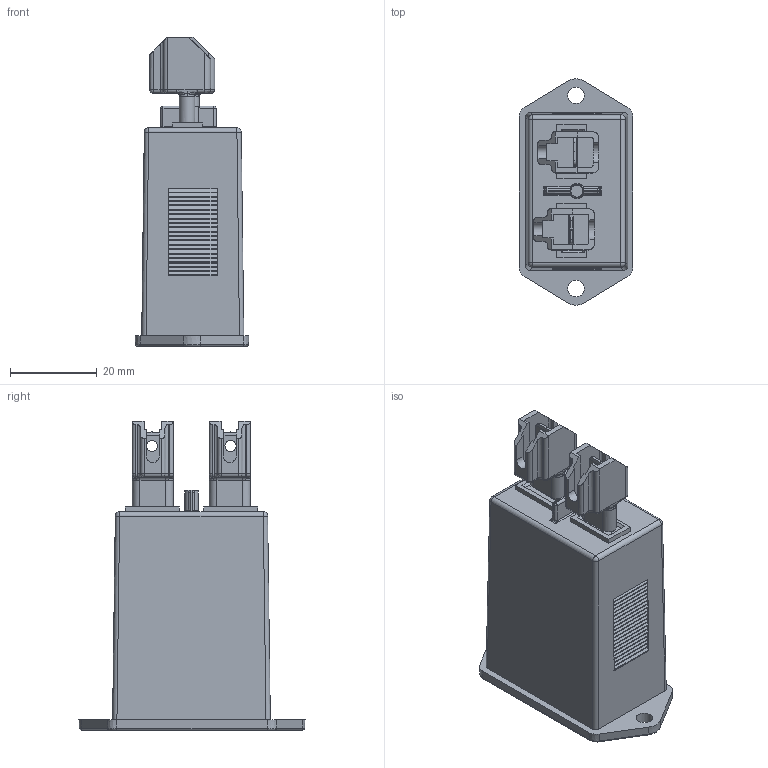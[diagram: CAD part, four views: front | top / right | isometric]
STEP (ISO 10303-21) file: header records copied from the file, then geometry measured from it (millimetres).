
FILE_DESCRIPTION( ( 'Unknown' ), '1' );
FILE_NAME( 'Z:/GIC/Marketing requirement/3D drawing to Altech - SGA/HM 36/COUNTER/QD22A HOUSING RECTANGULAR 2 HOLE.stp', 'Unknown', ( 'Unknown' ), ( 'Unknown' ), 'PSStep 17.0.49', 'Unknown', ' ' );
FILE_SCHEMA( ( 'AUTOMOTIVE_DESIGN { 1 0 10303 214 1 1 1 1 }' ) );
Length unit declared in the file: millimetre
Products named in the file (3): COUNTER FRONT PLATE
Bounding box: 26.2 x 52.08 x 71.26 mm (x, y, z)
Volume: 12072.3 mm3; surface area: 18244.8 mm2
Topology: 3 solids, 4 shells, 728 faces, 1967 edges, 1248 vertices
Faces by surface type: plane 492, cylinder 151, bspline 32, torus 22, sphere 16, extrusion 9, cone 6
Full cylindrical faces by diameter (mm): 0.05 x2, 0.1 x1, 0.3 x1, 1.5 x4, 2.6 x2, 3.767 x1, 3.8 x1
Entity records: 31595 total; most frequent: CARTESIAN_POINT 7672, ORIENTED_EDGE 3856, DIRECTION 3549, EDGE_CURVE 1928, VECTOR 1501, LINE 1492, VERTEX_POINT 1242, AXIS2_PLACEMENT_3D 1024
